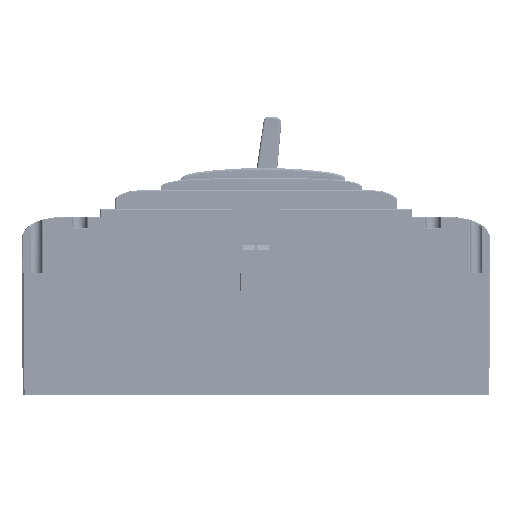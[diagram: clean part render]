
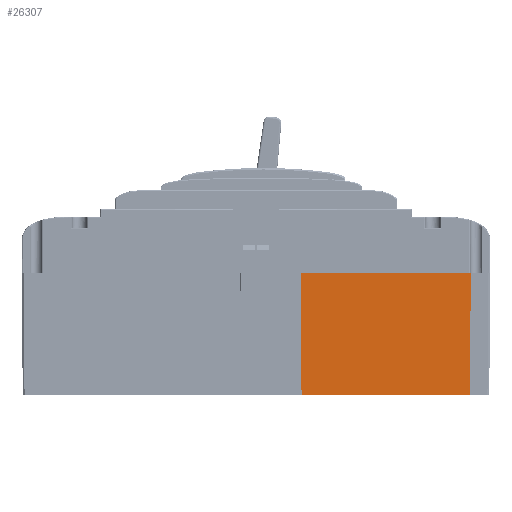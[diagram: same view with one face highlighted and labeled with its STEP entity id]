
A CAD part, front view. The second image highlights one B-rep face of the part: STEP entity #26307.
In plain terms, the highlighted planar face has unit normal (0, -1, -0.005).
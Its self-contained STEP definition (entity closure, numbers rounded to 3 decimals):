
#2929=DIRECTION('',(1.,0.,0.));
#2930=VECTOR('',#2929,92.545);
#2931=CARTESIAN_POINT('',(153.503,0.553,
-0.6));
#2932=LINE('',#2931,#2930);
#5229=DIRECTION('',(0.005,0.005,-1.));
#5230=VECTOR('',#5229,67.102);
#5231=CARTESIAN_POINT('',(153.15,0.2,66.5));
#5232=LINE('',#5231,#5230);
#5233=DIRECTION('',(1.,0.,0.));
#5234=VECTOR('',#5233,93.25);
#5235=CARTESIAN_POINT('',(153.15,0.2,66.5));
#5236=LINE('',#5235,#5234);
#5237=DIRECTION('',(-0.005,0.005,-1.));
#5238=VECTOR('',#5237,67.102);
#5239=CARTESIAN_POINT('',(246.4,0.2,66.5));
#5240=LINE('',#5239,#5238);
#16816=CARTESIAN_POINT('',(246.4,0.2,
66.5));
#16817=VERTEX_POINT('',#16816);
#16818=CARTESIAN_POINT('',(153.15,0.2,
66.5));
#16819=VERTEX_POINT('',#16818);
#17641=CARTESIAN_POINT('',(153.503,0.553,
-0.6));
#17642=VERTEX_POINT('',#17641);
#17643=CARTESIAN_POINT('',(246.047,0.553,
-0.6));
#17644=VERTEX_POINT('',#17643);
#26295=CARTESIAN_POINT('',(197.025,0.2,66.501));
#26296=DIRECTION('',(0.,-1.,-0.005));
#26297=DIRECTION('',(0.,-0.005,1.));
#26298=AXIS2_PLACEMENT_3D('',#26295,#26296,#26297);
#26299=PLANE('',#26298);
#26300=ORIENTED_EDGE('',*,*,#20590,.T.);
#26302=ORIENTED_EDGE('',*,*,#26301,.T.);
#26303=ORIENTED_EDGE('',*,*,#23108,.F.);
#26304=ORIENTED_EDGE('',*,*,#26288,.F.);
#26305=EDGE_LOOP('',(#26300,#26302,#26303,#26304));
#26306=FACE_OUTER_BOUND('',#26305,.F.);
#26307=ADVANCED_FACE('',(#26306),#26299,.T.);
#20590=EDGE_CURVE('',#16819,#16817,#5236,.T.);
#23108=EDGE_CURVE('',#17642,#17644,#2932,.T.);
#26288=EDGE_CURVE('',#16819,#17642,#5232,.T.);
#26301=EDGE_CURVE('',#16817,#17644,#5240,.T.);
